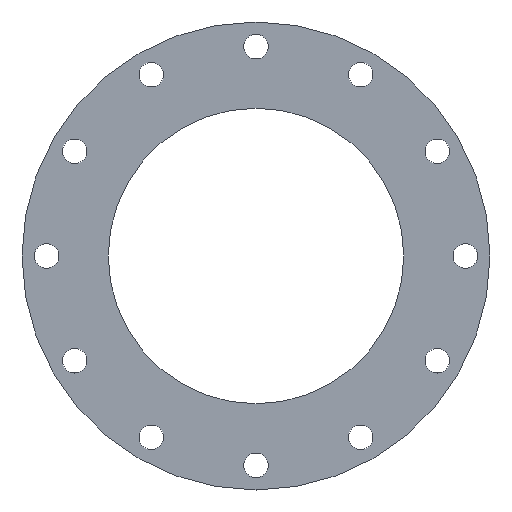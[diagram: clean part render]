
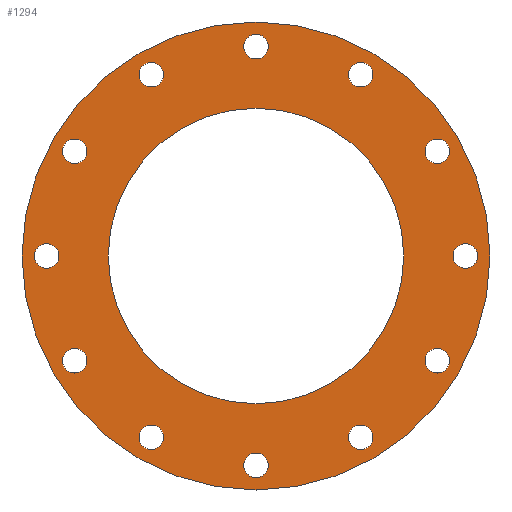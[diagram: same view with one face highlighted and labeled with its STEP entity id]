
A CAD part, left-side view. The second image highlights one B-rep face of the part: STEP entity #1294.
In plain terms, the highlighted planar face has unit normal (-1, 0, 0).
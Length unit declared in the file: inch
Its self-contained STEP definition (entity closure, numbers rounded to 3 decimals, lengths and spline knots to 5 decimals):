
#471=CARTESIAN_POINT('',(-4.,7.61122,-3.81699));
#472=VERTEX_POINT('',#471);
#473=CARTESIAN_POINT('',(-4.,7.36122,-4.25));
#474=DIRECTION('',(1.0,0.0,0.0));
#475=DIRECTION('',(0.0,-0.5,-0.866));
#476=AXIS2_PLACEMENT_3D('',#473,#474,#475);
#477=CIRCLE('',#476,0.5);
#478=EDGE_CURVE('',#472,#472,#477,.T.);
#499=CARTESIAN_POINT('',(-4.,4.68301,-7.11122));
#500=VERTEX_POINT('',#499);
#501=CARTESIAN_POINT('',(-4.,4.25,-7.36122));
#502=DIRECTION('',(1.,0.0,0.0));
#503=DIRECTION('',(0.0,-0.866,-0.5));
#504=AXIS2_PLACEMENT_3D('',#501,#502,#503);
#505=CIRCLE('',#504,0.5);
#506=EDGE_CURVE('',#500,#500,#505,.T.);
#527=CARTESIAN_POINT('',(-4.,0.5,-8.5));
#528=VERTEX_POINT('',#527);
#529=CARTESIAN_POINT('',(-4.,0.,-8.5));
#530=DIRECTION('',(1.0,0.0,0.0));
#531=DIRECTION('',(0.0,-1.0,0.0));
#532=AXIS2_PLACEMENT_3D('',#529,#530,#531);
#533=CIRCLE('',#532,0.5);
#534=EDGE_CURVE('',#528,#528,#533,.T.);
#555=CARTESIAN_POINT('',(-4.,-3.81699,-7.61122));
#556=VERTEX_POINT('',#555);
#557=CARTESIAN_POINT('',(-4.,-4.25,-7.36122));
#558=DIRECTION('',(1.0,0.0,0.0));
#559=DIRECTION('',(0.0,-0.866,0.5));
#560=AXIS2_PLACEMENT_3D('',#557,#558,#559);
#561=CIRCLE('',#560,0.5);
#562=EDGE_CURVE('',#556,#556,#561,.T.);
#583=CARTESIAN_POINT('',(-4.,-7.11122,-4.68301));
#584=VERTEX_POINT('',#583);
#585=CARTESIAN_POINT('',(-4.,-7.36122,-4.25));
#586=DIRECTION('',(1.0,0.0,0.0));
#587=DIRECTION('',(0.0,-0.5,0.866));
#588=AXIS2_PLACEMENT_3D('',#585,#586,#587);
#589=CIRCLE('',#588,0.5);
#590=EDGE_CURVE('',#584,#584,#589,.T.);
#611=CARTESIAN_POINT('',(-4.,-8.5,-0.5));
#612=VERTEX_POINT('',#611);
#613=CARTESIAN_POINT('',(-4.,-8.5,0.));
#614=DIRECTION('',(1.0,0.0,0.0));
#615=DIRECTION('',(0.0,0.0,1.0));
#616=AXIS2_PLACEMENT_3D('',#613,#614,#615);
#617=CIRCLE('',#616,0.5);
#618=EDGE_CURVE('',#612,#612,#617,.T.);
#639=CARTESIAN_POINT('',(-4.,-7.61122,3.81699));
#640=VERTEX_POINT('',#639);
#641=CARTESIAN_POINT('',(-4.,-7.36122,4.25));
#642=DIRECTION('',(1.0,0.0,0.0));
#643=DIRECTION('',(0.0,0.5,0.866));
#644=AXIS2_PLACEMENT_3D('',#641,#642,#643);
#645=CIRCLE('',#644,0.5);
#646=EDGE_CURVE('',#640,#640,#645,.T.);
#667=CARTESIAN_POINT('',(-4.,-4.68301,7.11122));
#668=VERTEX_POINT('',#667);
#669=CARTESIAN_POINT('',(-4.,-4.25,7.36122));
#670=DIRECTION('',(1.0,0.0,0.0));
#671=DIRECTION('',(0.0,0.866,0.5));
#672=AXIS2_PLACEMENT_3D('',#669,#670,#671);
#673=CIRCLE('',#672,0.5);
#674=EDGE_CURVE('',#668,#668,#673,.T.);
#695=CARTESIAN_POINT('',(-4.,-0.5,8.5));
#696=VERTEX_POINT('',#695);
#697=CARTESIAN_POINT('',(-4.,0.,8.5));
#698=DIRECTION('',(1.0,0.0,0.0));
#699=DIRECTION('',(0.0,1.0,0.0));
#700=AXIS2_PLACEMENT_3D('',#697,#698,#699);
#701=CIRCLE('',#700,0.5);
#702=EDGE_CURVE('',#696,#696,#701,.T.);
#723=CARTESIAN_POINT('',(-4.,3.81699,7.61122));
#724=VERTEX_POINT('',#723);
#725=CARTESIAN_POINT('',(-4.,4.25,7.36122));
#726=DIRECTION('',(1.,0.0,0.0));
#727=DIRECTION('',(0.0,0.866,-0.5));
#728=AXIS2_PLACEMENT_3D('',#725,#726,#727);
#729=CIRCLE('',#728,0.5);
#730=EDGE_CURVE('',#724,#724,#729,.T.);
#751=CARTESIAN_POINT('',(-4.,7.11122,4.68301));
#752=VERTEX_POINT('',#751);
#753=CARTESIAN_POINT('',(-4.,7.36122,4.25));
#754=DIRECTION('',(1.,0.0,0.0));
#755=DIRECTION('',(0.0,0.5,-0.866));
#756=AXIS2_PLACEMENT_3D('',#753,#754,#755);
#757=CIRCLE('',#756,0.5);
#758=EDGE_CURVE('',#752,#752,#757,.T.);
#779=CARTESIAN_POINT('',(-4.,8.5,0.5));
#780=VERTEX_POINT('',#779);
#781=CARTESIAN_POINT('',(-4.,8.5,0.0));
#782=DIRECTION('',(1.0,0.0,0.0));
#783=DIRECTION('',(0.0,0.0,-1.0));
#784=AXIS2_PLACEMENT_3D('',#781,#782,#783);
#785=CIRCLE('',#784,0.5);
#786=EDGE_CURVE('',#780,#780,#785,.T.);
#807=CARTESIAN_POINT('',(-4.,9.5,0.0));
#808=VERTEX_POINT('',#807);
#809=CARTESIAN_POINT('',(-4.,0.0,0.0));
#810=DIRECTION('',(1.0,0.0,0.0));
#811=DIRECTION('',(0.0,1.0,0.0));
#812=AXIS2_PLACEMENT_3D('',#809,#810,#811);
#813=CIRCLE('',#812,9.5);
#814=EDGE_CURVE('',#808,#808,#813,.T.);
#1232=CARTESIAN_POINT('',(-4.0,6.,0.0));
#1233=VERTEX_POINT('',#1232);
#1234=CARTESIAN_POINT('',(-4.0,0.0,0.0));
#1235=DIRECTION('',(1.0,0.0,0.0));
#1236=DIRECTION('',(0.0,1.0,0.0));
#1237=AXIS2_PLACEMENT_3D('',#1234,#1235,#1236);
#1238=CIRCLE('',#1237,6.);
#1239=EDGE_CURVE('',#1233,#1233,#1238,.T.);
#1247=CARTESIAN_POINT('',(-4.,7.75,0.0));
#1248=DIRECTION('',(-1.0,0.0,0.0));
#1249=DIRECTION('',(0.0,0.0,1.0));
#1250=AXIS2_PLACEMENT_3D('',#1247,#1248,#1249);
#1251=PLANE('',#1250);
#1252=ORIENTED_EDGE('',*,*,#814,.F.);
#1253=EDGE_LOOP('',(#1252));
#1254=FACE_OUTER_BOUND('',#1253,.T.);
#1255=ORIENTED_EDGE('',*,*,#478,.T.);
#1256=EDGE_LOOP('',(#1255));
#1257=FACE_BOUND('',#1256,.T.);
#1258=ORIENTED_EDGE('',*,*,#506,.T.);
#1259=EDGE_LOOP('',(#1258));
#1260=FACE_BOUND('',#1259,.T.);
#1261=ORIENTED_EDGE('',*,*,#534,.T.);
#1262=EDGE_LOOP('',(#1261));
#1263=FACE_BOUND('',#1262,.T.);
#1264=ORIENTED_EDGE('',*,*,#562,.T.);
#1265=EDGE_LOOP('',(#1264));
#1266=FACE_BOUND('',#1265,.T.);
#1267=ORIENTED_EDGE('',*,*,#590,.T.);
#1268=EDGE_LOOP('',(#1267));
#1269=FACE_BOUND('',#1268,.T.);
#1270=ORIENTED_EDGE('',*,*,#618,.T.);
#1271=EDGE_LOOP('',(#1270));
#1272=FACE_BOUND('',#1271,.T.);
#1273=ORIENTED_EDGE('',*,*,#646,.T.);
#1274=EDGE_LOOP('',(#1273));
#1275=FACE_BOUND('',#1274,.T.);
#1276=ORIENTED_EDGE('',*,*,#674,.T.);
#1277=EDGE_LOOP('',(#1276));
#1278=FACE_BOUND('',#1277,.T.);
#1279=ORIENTED_EDGE('',*,*,#702,.T.);
#1280=EDGE_LOOP('',(#1279));
#1281=FACE_BOUND('',#1280,.T.);
#1282=ORIENTED_EDGE('',*,*,#730,.T.);
#1283=EDGE_LOOP('',(#1282));
#1284=FACE_BOUND('',#1283,.T.);
#1285=ORIENTED_EDGE('',*,*,#758,.T.);
#1286=EDGE_LOOP('',(#1285));
#1287=FACE_BOUND('',#1286,.T.);
#1288=ORIENTED_EDGE('',*,*,#786,.T.);
#1289=EDGE_LOOP('',(#1288));
#1290=FACE_BOUND('',#1289,.T.);
#1291=ORIENTED_EDGE('',*,*,#1239,.T.);
#1292=EDGE_LOOP('',(#1291));
#1293=FACE_BOUND('',#1292,.T.);
#1294=ADVANCED_FACE('',(#1254,#1257,#1260,#1263,#1266,#1269,#1272,#1275,#1278,#1281,#1284,#1287,#1290,#1293),#1251,.T.);
